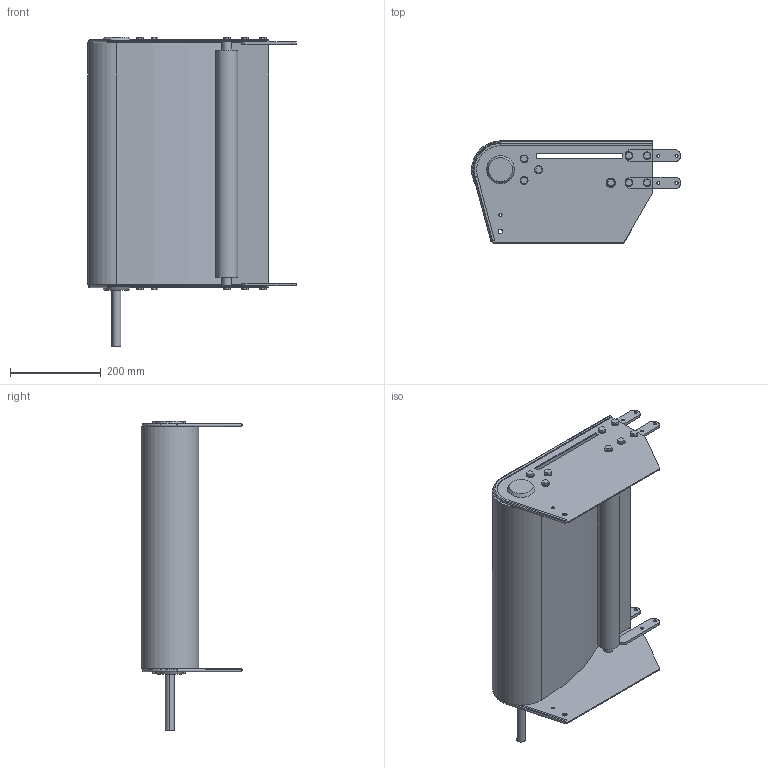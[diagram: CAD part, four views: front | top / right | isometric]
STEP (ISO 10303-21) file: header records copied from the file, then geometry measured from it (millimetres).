
FILE_DESCRIPTION (( 'STEP AP214' ), '1' );
FILE_NAME ('03.102D1R20.550 FS-550-MTS2-100.INOX Directe drive section right.STEP', '2025-02-04T12:38:27', ( '' ), ( '' ), 'SwSTEP 2.0', 'SolidWorks 2024', '' );
FILE_SCHEMA (( 'AUTOMOTIVE_DESIGN' ));
Length unit declared in the file: millimetre
Products named in the file (1): 03.102D1R20.550 FS-550-MTS2-100.INOX Directe drive section right
Bounding box: 461 x 225 x 684 mm (x, y, z)
Volume: 6455774.5 mm3; surface area: 1512713.1 mm2
Topology: 4 solids, 4 shells, 325 faces, 794 edges, 516 vertices
Faces by surface type: plane 223, cylinder 96, cone 4, torus 2
Entity records: 9602 total; most frequent: DIRECTION 1650, CARTESIAN_POINT 1636, ORIENTED_EDGE 1588, EDGE_CURVE 794, VECTOR 590, LINE 590, AXIS2_PLACEMENT_3D 530, VERTEX_POINT 516
